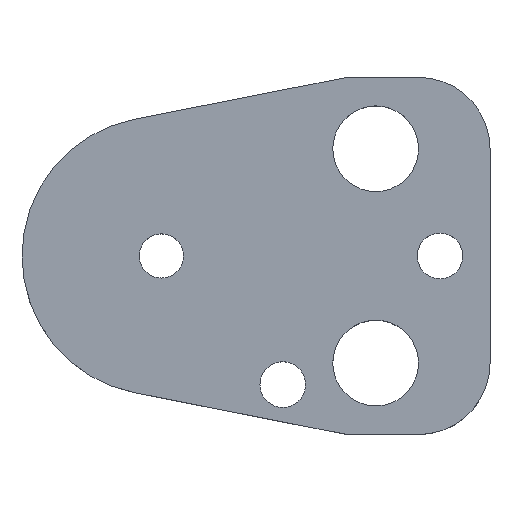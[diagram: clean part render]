
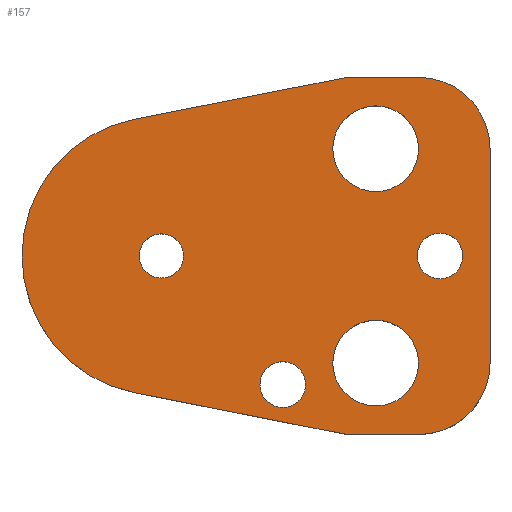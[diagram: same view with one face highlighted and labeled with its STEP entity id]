
A CAD part, top view. The second image highlights one B-rep face of the part: STEP entity #157.
In plain terms, the highlighted planar face has unit normal (0, 0, 1).
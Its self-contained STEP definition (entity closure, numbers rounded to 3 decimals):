
#103=FACE_BOUND('',#207,.T.);
#104=FACE_BOUND('',#208,.T.);
#105=FACE_BOUND('',#209,.T.);
#106=FACE_BOUND('',#210,.T.);
#107=FACE_BOUND('',#211,.T.);
#108=FACE_BOUND('',#212,.T.);
#122=CIRCLE('',#480,10.);
#124=CIRCLE('',#484,10.);
#127=CIRCLE('',#490,19.5);
#138=CIRCLE('',#503,3.2);
#139=CIRCLE('',#504,3.2);
#140=CIRCLE('',#505,6.);
#141=CIRCLE('',#506,6.);
#142=CIRCLE('',#507,6.);
#143=CIRCLE('',#508,6.);
#144=CIRCLE('',#509,3.2);
#145=CIRCLE('',#510,3.2);
#146=CIRCLE('',#511,3.1);
#147=CIRCLE('',#512,3.1);
#157=ADVANCED_FACE('',(#103,#104,#105,#106,#107,#108),#174,.T.);
#174=PLANE('',#513);
#207=EDGE_LOOP('',(#273,#274,#275,#276,#277,#278,#279,#280));
#208=EDGE_LOOP('',(#281,#282));
#209=EDGE_LOOP('',(#283,#284));
#210=EDGE_LOOP('',(#285,#286));
#211=EDGE_LOOP('',(#287,#288));
#212=EDGE_LOOP('',(#289,#290));
#273=ORIENTED_EDGE('',*,*,#368,.T.);
#274=ORIENTED_EDGE('',*,*,#372,.T.);
#275=ORIENTED_EDGE('',*,*,#375,.T.);
#276=ORIENTED_EDGE('',*,*,#378,.T.);
#277=ORIENTED_EDGE('',*,*,#381,.T.);
#278=ORIENTED_EDGE('',*,*,#384,.T.);
#279=ORIENTED_EDGE('',*,*,#387,.T.);
#280=ORIENTED_EDGE('',*,*,#390,.T.);
#281=ORIENTED_EDGE('',*,*,#401,.T.);
#282=ORIENTED_EDGE('',*,*,#402,.T.);
#283=ORIENTED_EDGE('',*,*,#403,.T.);
#284=ORIENTED_EDGE('',*,*,#404,.T.);
#285=ORIENTED_EDGE('',*,*,#405,.T.);
#286=ORIENTED_EDGE('',*,*,#406,.T.);
#287=ORIENTED_EDGE('',*,*,#407,.T.);
#288=ORIENTED_EDGE('',*,*,#408,.T.);
#289=ORIENTED_EDGE('',*,*,#409,.T.);
#290=ORIENTED_EDGE('',*,*,#410,.T.);
#332=VERTEX_POINT('',#649);
#333=VERTEX_POINT('',#651);
#336=VERTEX_POINT('',#658);
#338=VERTEX_POINT('',#664);
#340=VERTEX_POINT('',#670);
#342=VERTEX_POINT('',#676);
#344=VERTEX_POINT('',#682);
#346=VERTEX_POINT('',#688);
#357=VERTEX_POINT('',#717);
#358=VERTEX_POINT('',#718);
#359=VERTEX_POINT('',#721);
#360=VERTEX_POINT('',#722);
#361=VERTEX_POINT('',#725);
#362=VERTEX_POINT('',#726);
#363=VERTEX_POINT('',#729);
#364=VERTEX_POINT('',#730);
#365=VERTEX_POINT('',#733);
#366=VERTEX_POINT('',#734);
#368=EDGE_CURVE('',#333,#332,#422,.T.);
#372=EDGE_CURVE('',#332,#336,#426,.T.);
#375=EDGE_CURVE('',#336,#338,#122,.T.);
#378=EDGE_CURVE('',#338,#340,#430,.T.);
#381=EDGE_CURVE('',#340,#342,#124,.T.);
#384=EDGE_CURVE('',#342,#344,#434,.T.);
#387=EDGE_CURVE('',#344,#346,#437,.T.);
#390=EDGE_CURVE('',#346,#333,#127,.T.);
#401=EDGE_CURVE('',#357,#358,#138,.T.);
#402=EDGE_CURVE('',#358,#357,#139,.T.);
#403=EDGE_CURVE('',#359,#360,#140,.T.);
#404=EDGE_CURVE('',#360,#359,#141,.T.);
#405=EDGE_CURVE('',#361,#362,#142,.T.);
#406=EDGE_CURVE('',#362,#361,#143,.T.);
#407=EDGE_CURVE('',#363,#364,#144,.T.);
#408=EDGE_CURVE('',#364,#363,#145,.T.);
#409=EDGE_CURVE('',#365,#366,#146,.T.);
#410=EDGE_CURVE('',#366,#365,#147,.T.);
#422=LINE('',#650,#450);
#426=LINE('',#659,#454);
#430=LINE('',#671,#458);
#434=LINE('',#683,#462);
#437=LINE('',#689,#465);
#450=VECTOR('',#527,1.);
#454=VECTOR('',#533,1.);
#458=VECTOR('',#545,1.);
#462=VECTOR('',#557,1.);
#465=VECTOR('',#562,1.);
#480=AXIS2_PLACEMENT_3D('',#665,#538,#539);
#484=AXIS2_PLACEMENT_3D('',#677,#550,#551);
#490=AXIS2_PLACEMENT_3D('',#693,#568,#569);
#503=AXIS2_PLACEMENT_3D('',#716,#594,#595);
#504=AXIS2_PLACEMENT_3D('',#719,#596,#597);
#505=AXIS2_PLACEMENT_3D('',#720,#598,#599);
#506=AXIS2_PLACEMENT_3D('',#723,#600,#601);
#507=AXIS2_PLACEMENT_3D('',#724,#602,#603);
#508=AXIS2_PLACEMENT_3D('',#727,#604,#605);
#509=AXIS2_PLACEMENT_3D('',#728,#606,#607);
#510=AXIS2_PLACEMENT_3D('',#731,#608,#609);
#511=AXIS2_PLACEMENT_3D('',#732,#610,#611);
#512=AXIS2_PLACEMENT_3D('',#735,#612,#613);
#513=AXIS2_PLACEMENT_3D('',#736,#614,#615);
#527=DIRECTION('',(0.981,-0.193,0.));
#533=DIRECTION('',(1.,0.,0.));
#538=DIRECTION('',(0.,0.,1.));
#539=DIRECTION('',(-0.707,0.707,0.));
#545=DIRECTION('',(0.,1.,0.));
#550=DIRECTION('',(0.,0.,1.));
#551=DIRECTION('',(-0.707,-0.707,0.));
#557=DIRECTION('',(-1.,0.,0.));
#562=DIRECTION('',(-0.981,-0.193,0.));
#568=DIRECTION('',(0.,0.,1.));
#569=DIRECTION('',(1.,0.,0.));
#594=DIRECTION('',(0.,0.,-1.));
#595=DIRECTION('',(-1.,0.,0.));
#596=DIRECTION('',(0.,0.,-1.));
#597=DIRECTION('',(1.,0.,0.));
#598=DIRECTION('',(0.,0.,-1.));
#599=DIRECTION('',(-1.,0.,0.));
#600=DIRECTION('',(0.,0.,-1.));
#601=DIRECTION('',(1.,0.,0.));
#602=DIRECTION('',(0.,0.,-1.));
#603=DIRECTION('',(-1.,0.,0.));
#604=DIRECTION('',(0.,0.,-1.));
#605=DIRECTION('',(1.,0.,0.));
#606=DIRECTION('',(0.,0.,-1.));
#607=DIRECTION('',(-1.,0.,0.));
#608=DIRECTION('',(0.,0.,-1.));
#609=DIRECTION('',(1.,0.,0.));
#610=DIRECTION('',(0.,0.,-1.));
#611=DIRECTION('',(-1.,0.,0.));
#612=DIRECTION('',(0.,0.,-1.));
#613=DIRECTION('',(1.,0.,0.));
#614=DIRECTION('',(0.,0.,1.));
#615=DIRECTION('',(0.981,-0.193,0.));
#649=CARTESIAN_POINT('',(26.,-25.,10.));
#650=CARTESIAN_POINT('',(26.,-25.,10.));
#651=CARTESIAN_POINT('',(-3.771,-19.132,10.));
#658=CARTESIAN_POINT('',(36.,-25.,10.));
#659=CARTESIAN_POINT('',(26.,-25.,10.));
#664=CARTESIAN_POINT('',(46.,-15.,10.));
#665=CARTESIAN_POINT('',(36.,-15.,10.));
#670=CARTESIAN_POINT('',(46.,15.,10.));
#671=CARTESIAN_POINT('',(46.,15.,10.));
#676=CARTESIAN_POINT('',(36.,25.,10.));
#677=CARTESIAN_POINT('',(36.,15.,10.));
#682=CARTESIAN_POINT('',(26.,25.,10.));
#683=CARTESIAN_POINT('',(26.,25.,10.));
#688=CARTESIAN_POINT('',(-3.771,19.132,10.));
#689=CARTESIAN_POINT('',(26.,25.,10.));
#693=CARTESIAN_POINT('',(0.,0.,10.));
#716=CARTESIAN_POINT('',(39.,0.,10.));
#717=CARTESIAN_POINT('',(39.,3.2,10.));
#718=CARTESIAN_POINT('',(39.,-3.2,10.));
#719=CARTESIAN_POINT('',(39.,0.,10.));
#720=CARTESIAN_POINT('',(30.,15.,10.));
#721=CARTESIAN_POINT('',(30.,21.,10.));
#722=CARTESIAN_POINT('',(30.,9.,10.));
#723=CARTESIAN_POINT('',(30.,15.,10.));
#724=CARTESIAN_POINT('',(30.,-15.,10.));
#725=CARTESIAN_POINT('',(30.,-9.,10.));
#726=CARTESIAN_POINT('',(30.,-21.,10.));
#727=CARTESIAN_POINT('',(30.,-15.,10.));
#728=CARTESIAN_POINT('',(17.,-18.,10.));
#729=CARTESIAN_POINT('',(17.,-14.8,10.));
#730=CARTESIAN_POINT('',(17.,-21.2,10.));
#731=CARTESIAN_POINT('',(17.,-18.,10.));
#732=CARTESIAN_POINT('',(0.,0.,10.));
#733=CARTESIAN_POINT('',(0.,3.1,10.));
#734=CARTESIAN_POINT('',(0.,-3.1,10.));
#735=CARTESIAN_POINT('',(0.,0.,10.));
#736=CARTESIAN_POINT('',(-3.771,-19.132,10.));
